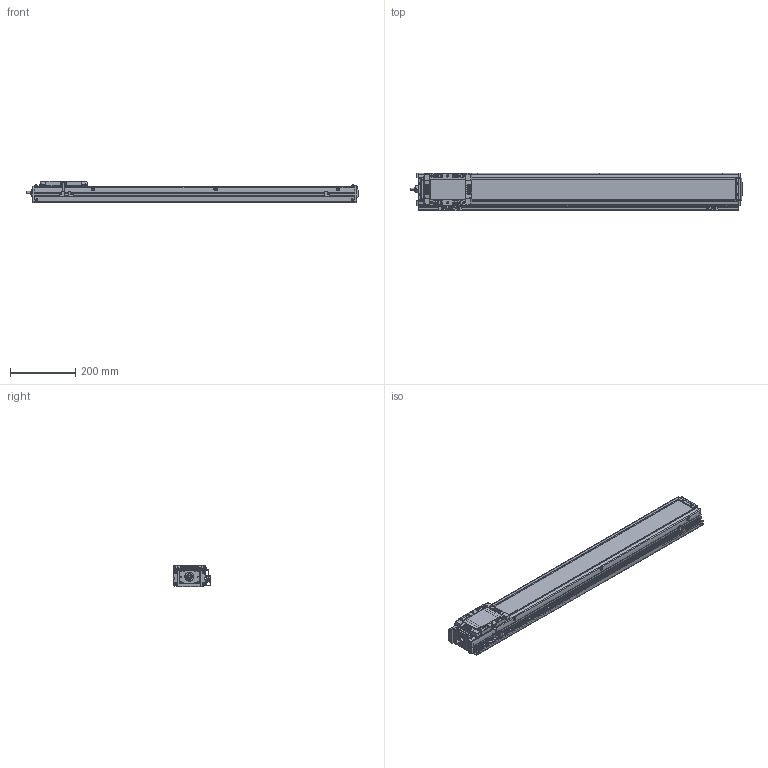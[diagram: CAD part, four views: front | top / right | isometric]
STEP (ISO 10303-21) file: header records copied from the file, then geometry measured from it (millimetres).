
FILE_DESCRIPTION(('STEP AP214'),'1');
FILE_NAME('Z:/Web/3D/SAN100/SAN100 양산용 (STEP)/SAN100ㅁㅁ-800+3SR.stp','2013-04-30T01:04:22',(' '),(' '),'Spatial InterOp 3D',' ',' ');
FILE_SCHEMA(('automotive_design'));
Length unit declared in the file: millimetre
Products named in the file (54): EE-SX674; SBK-SX674-352; 스크루 : Round - M3.0 x 6.0; M3.0 x 6.0; SRL-16x17-380L; SGD-SAN100; SUS COVER; SFX-SAN100; RRCV-SAN100; 스크루 : Round - M4.0 x 10.0; FRBL-SAN100; SLBL-SAN100; SLCV-SAN100; 스크루 : Countersunk - M3.0 x 6.0; BASE; 스크루 : Round - M5.0 x 6.0; 너트 : Square - M10.0 x 220.7419; RR1500-000L; FRCV-SAN100
Bounding box: 1016 x 116 x 66 mm (x, y, z)
Volume: 2757347.4 mm3; surface area: 768032.3 mm2
Topology: 54 solids, 55 shells, 2569 faces, 6692 edges, 4323 vertices
Faces by surface type: plane 1352, cylinder 877, cone 234, sphere 68, torus 26, bspline 12
Entity records: 101425 total; most frequent: CARTESIAN_POINT 15320, DIRECTION 14059, ORIENTED_EDGE 13188, EDGE_CURVE 6594, AXIS2_PLACEMENT_3D 5003, VERTEX_POINT 4323, LINE 4053, VECTOR 4053
